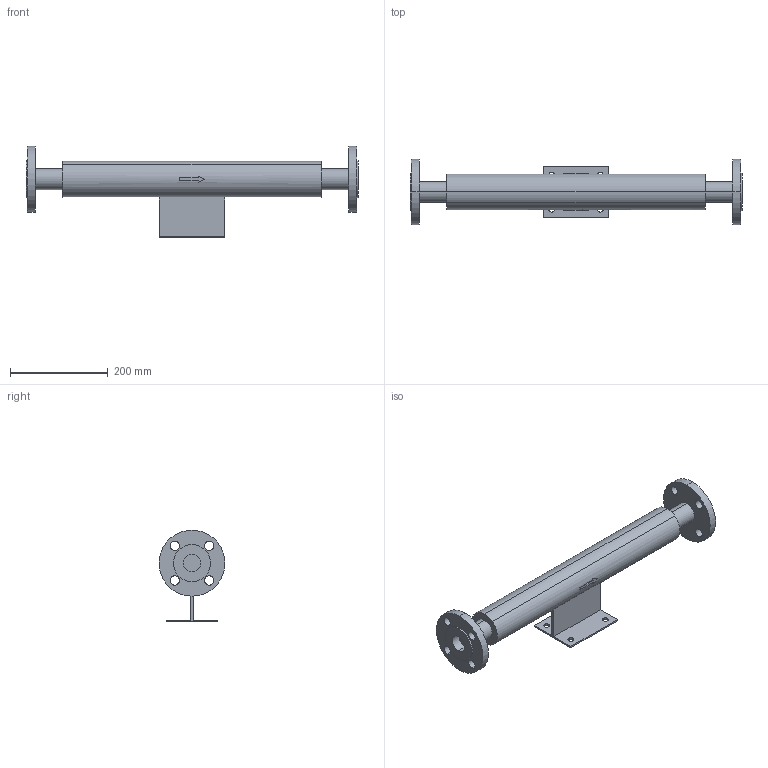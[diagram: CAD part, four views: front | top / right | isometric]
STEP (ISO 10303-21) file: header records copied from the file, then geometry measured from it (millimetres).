
FILE_DESCRIPTION( (''), '2;1');
FILE_NAME ('PC1027.9516.EB-12_32A_25153.stp','2025-07-30T08:55:37',(''),(''),'spGate 20.6.3 (****-****-****-****)','','');
FILE_SCHEMA (('AUTOMOTIVE_DESIGN'));
Length unit declared in the file: millimetre
Bounding box: 680 x 135 x 187.5 mm (x, y, z)
Volume: 2913036.1 mm3; surface area: 269950.6 mm2
Topology: 1 solids, 1 shells, 77 faces, 194 edges, 130 vertices
Faces by surface type: cylinder 42, plane 35
Entity records: 3921 total; most frequent: CARTESIAN_POINT 451, DIRECTION 396, ORIENTED_EDGE 388, COLOUR_RGB 272, PRESENTATION_STYLE_ASSIGNMENT 272, STYLED_ITEM 272, EDGE_CURVE 194, DRAUGHTING_PRE_DEFINED_CURVE_FONT 194
